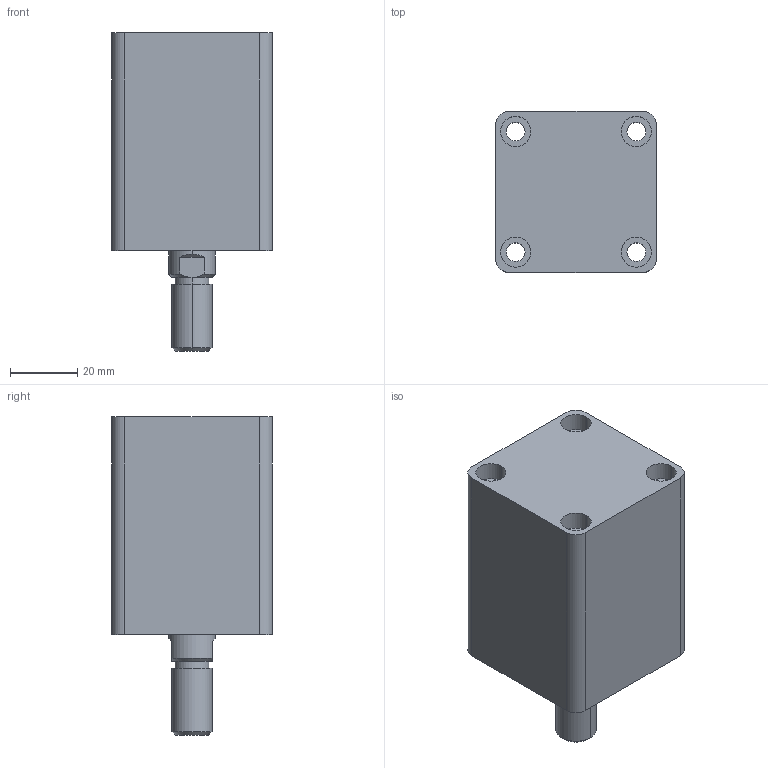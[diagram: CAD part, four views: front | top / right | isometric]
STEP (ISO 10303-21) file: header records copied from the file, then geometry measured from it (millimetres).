
FILE_DESCRIPTION (( 'STEP AP203' ), '1' );
FILE_NAME ('HTB-SD25-20W.STEP', '2019-10-07T05:58:45', ( '微软用户' ), ( '微软中国' ), 'SwSTEP 2.0', 'SolidWorks 2012', '' );
FILE_SCHEMA (( 'CONFIG_CONTROL_DESIGN' ));
Length unit declared in the file: millimetre
Products named in the file (3): HTB-SD25-20掛极; HTB-SD25-20W活塞杆; HTB-SD25-20W
Assembly tree (2 placements, depth 2):
  HTB-SD25-20W
    HTB-SD25-20掛极
    HTB-SD25-20W活塞杆
Bounding box: 48 x 48 x 95 mm (x, y, z)
Volume: 136559.1 mm3; surface area: 31462.5 mm2
Topology: 2 solids, 2 shells, 87 faces, 188 edges, 122 vertices
Faces by surface type: cylinder 44, plane 29, cone 8, torus 6
Entity records: 2759 total; most frequent: DIRECTION 476, CARTESIAN_POINT 446, ORIENTED_EDGE 376, AXIS2_PLACEMENT_3D 204, EDGE_CURVE 188, VERTEX_POINT 122, CIRCLE 112, EDGE_LOOP 112
